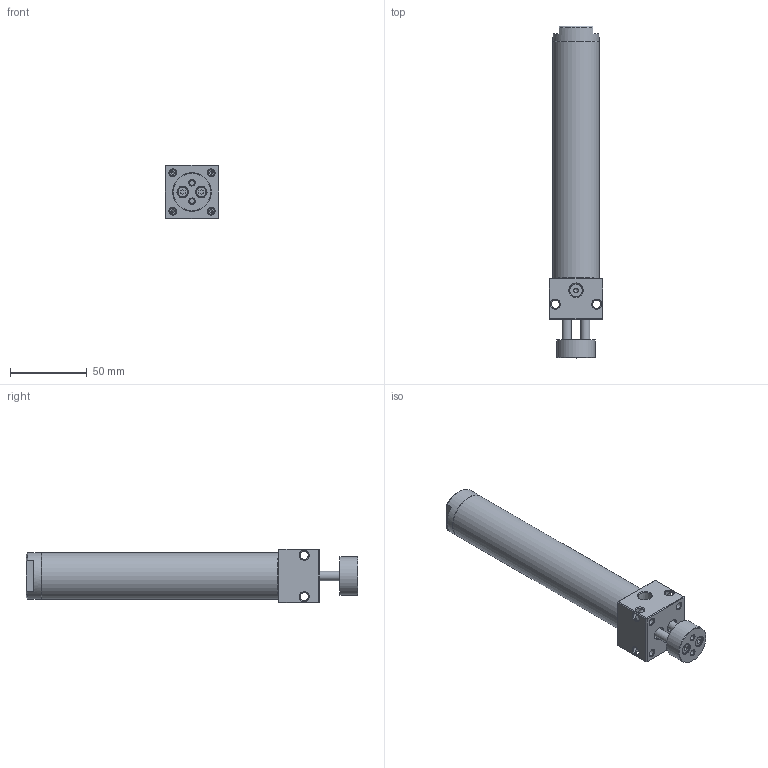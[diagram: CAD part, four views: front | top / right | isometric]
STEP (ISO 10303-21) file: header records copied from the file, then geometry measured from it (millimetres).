
FILE_DESCRIPTION((''),'2;1');
FILE_NAME('I:\3D電子目錄\氣缸\DBT\DBT\DBT25\DBT25x100.stp','2007-10-08T08:57:06',('Administrator'),(''),'Autodesk Inventor 2008','Autodesk Inventor 2008','');
FILE_SCHEMA(('AUTOMOTIVE_DESIGN { 1 0 10303 214 1 1 1 1 }'));
Length unit declared in the file: millimetre
Products named in the file (1): DBT25x100
Bounding box: 35 x 216 x 35 mm (x, y, z)
Volume: 80776.4 mm3; surface area: 46539.5 mm2
Topology: 1 solids, 5 shells, 172 faces, 396 edges, 239 vertices
Faces by surface type: plane 57, bspline 54, cone 38, cylinder 23
Full cylindrical faces by diameter (mm): 3 x1, 3.4 x1, 4 x1, 6 x3, 6.5 x1, 7 x1, 8 x1, 9 x1, 16 x1, 23.8 x2, 25 x2, 25.8 x2, 27 x2, 27.2 x2, 30 x2
Entity records: 5091 total; most frequent: CARTESIAN_POINT 1849, DIRECTION 622, ORIENTED_EDGE 548, EDGE_LOOP 308, EDGE_CURVE 274, AXIS2_PLACEMENT_3D 265, VERTEX_POINT 212, FACE_OUTER_BOUND 172
